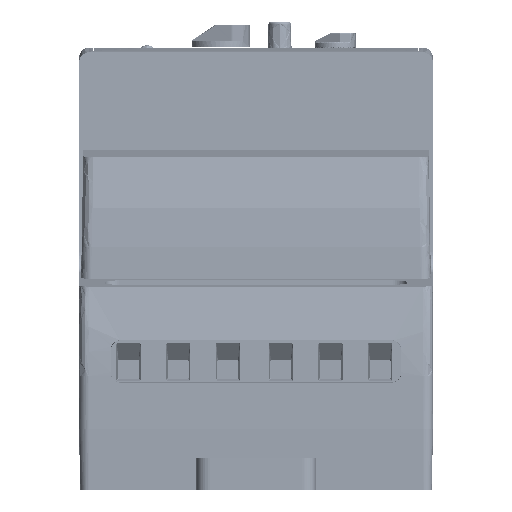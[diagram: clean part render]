
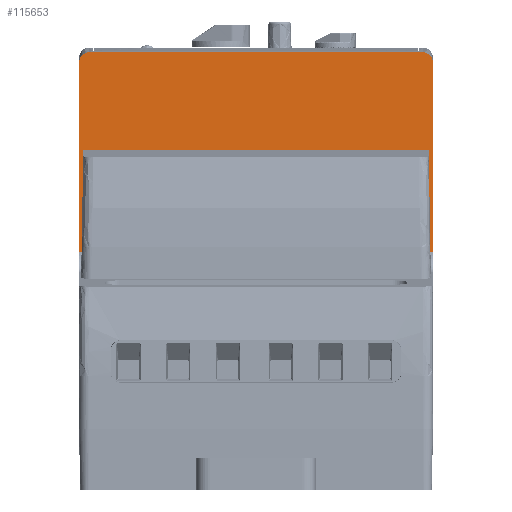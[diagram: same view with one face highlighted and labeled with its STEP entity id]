
A CAD part, front view. The second image highlights one B-rep face of the part: STEP entity #115653.
In plain terms, the highlighted planar face has unit normal (0, -1, 0.015).
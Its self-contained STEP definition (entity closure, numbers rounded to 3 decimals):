
#1202 = CARTESIAN_POINT ( 'NONE',  ( -59.507, 98.055, 66.973 ) ) ;
#6231 = CARTESIAN_POINT ( 'NONE',  ( -110.753, 97.823, 51.913 ) ) ;
#6941 = B_SPLINE_CURVE_WITH_KNOTS ( 'NONE', 3,
 ( #46424, #119510, #61134, #163722 ),
 .UNSPECIFIED., .F., .F.,
 ( 4, 4 ),
 ( 0., 1. ),
 .UNSPECIFIED. ) ;
#7844 = CARTESIAN_POINT ( 'NONE',  ( -59.065, 98.264, 80.534 ) ) ;
#8458 = CARTESIAN_POINT ( 'NONE',  ( -110.137, 98.273, 81.094 ) ) ;
#8789 = EDGE_CURVE ( 'NONE', #171015, #132635, #64210, .T. ) ;
#9782 = ORIENTED_EDGE ( 'NONE', *, *, #45467, .T. ) ;
#9976 = EDGE_CURVE ( 'NONE', #50767, #98495, #98747, .T. ) ;
#12181 = FACE_OUTER_BOUND ( 'NONE', #67635, .T. ) ;
#19873 = CARTESIAN_POINT ( 'NONE',  ( -58.876, 97.966, 61.199 ) ) ;
#20860 = VERTEX_POINT ( 'NONE', #164958 ) ;
#22586 = CARTESIAN_POINT ( 'NONE',  ( -59.452, 98.271, 80.982 ) ) ;
#23033 = CARTESIAN_POINT ( 'NONE',  ( -110.508, 97.823, 51.913 ) ) ;
#23185 = CARTESIAN_POINT ( 'NONE',  ( -110.579, 98.267, 80.699 ) ) ;
#25449 = DIRECTION ( 'NONE',  ( -1., 0., 0. ) ) ;
#25553 = CARTESIAN_POINT ( 'NONE',  ( -110.876, 97.966, 61.199 ) ) ;
#31499 = CARTESIAN_POINT ( 'NONE',  ( -59.332, 97.9, 56.933 ) ) ;
#33693 = CARTESIAN_POINT ( 'NONE',  ( -58.876, 97.823, 51.913 ) ) ;
#34388 = EDGE_CURVE ( 'NONE', #98495, #96830, #55266, .T. ) ;
#34469 = CARTESIAN_POINT ( 'NONE',  ( -58.876, 97.823, 51.913 ) ) ;
#34655 = CARTESIAN_POINT ( 'NONE',  ( -58.876, 98.109, 70.485 ) ) ;
#35675 = B_SPLINE_CURVE_WITH_KNOTS ( 'NONE', 3,
 ( #169373, #139334, #96270, #8458, #111046, #23185, #125813, #37954, #140605, #52748 ),
 .UNSPECIFIED., .F., .F.,
 ( 4, 2, 2, 2, 4 ),
 ( 0., 0.25, 0.5, 0.75, 1. ),
 .UNSPECIFIED. ) ;
#35735 = CARTESIAN_POINT ( 'NONE',  ( -110.876, 97.823, 51.913 ) ) ;
#37339 = CARTESIAN_POINT ( 'NONE',  ( -59.983, 98.275, 81.249 ) ) ;
#37954 = CARTESIAN_POINT ( 'NONE',  ( -110.838, 98.258, 80.165 ) ) ;
#38192 = ORIENTED_EDGE ( 'NONE', *, *, #145161, .T. ) ;
#39602 = PLANE ( 'NONE',  #128939 ) ;
#41285 = ORIENTED_EDGE ( 'NONE', *, *, #9976, .T. ) ;
#41796 = B_SPLINE_CURVE_WITH_KNOTS ( 'NONE', 3,
 ( #78184, #19873, #34655, #137280 ),
 .UNSPECIFIED., .F., .F.,
 ( 4, 4 ),
 ( 0., 1. ),
 .UNSPECIFIED. ) ;
#44996 = CARTESIAN_POINT ( 'NONE',  ( -59.507, 98.055, 66.973 ) ) ;
#45467 = EDGE_CURVE ( 'NONE', #161008, #125060, #182099, .T. ) ;
#45784 = VERTEX_POINT ( 'NONE', #61500 ) ;
#46246 = CARTESIAN_POINT ( 'NONE',  ( -59.507, 98.055, 66.973 ) ) ;
#46424 = CARTESIAN_POINT ( 'NONE',  ( -110.508, 97.823, 51.913 ) ) ;
#47944 = CARTESIAN_POINT ( 'NONE',  ( -59.245, 97.823, 51.913 ) ) ;
#48427 = CARTESIAN_POINT ( 'NONE',  ( -60.376, 98.276, 81.288 ) ) ;
#50518 = CARTESIAN_POINT ( 'NONE',  ( -110.508, 97.823, 51.913 ) ) ;
#50767 = VERTEX_POINT ( 'NONE', #44996 ) ;
#52132 = CARTESIAN_POINT ( 'NONE',  ( -60.376, 98.276, 81.288 ) ) ;
#52748 = CARTESIAN_POINT ( 'NONE',  ( -110.876, 98.252, 79.771 ) ) ;
#55266 = B_SPLINE_CURVE_WITH_KNOTS ( 'NONE', 3,
 ( #47944, #165251, #122306, #34469 ),
 .UNSPECIFIED., .F., .F.,
 ( 4, 4 ),
 ( 0., 1. ),
 .UNSPECIFIED. ) ;
#59579 = CARTESIAN_POINT ( 'NONE',  ( -93.333, 98.055, 66.973 ) ) ;
#61134 = CARTESIAN_POINT ( 'NONE',  ( -110.333, 97.978, 61.953 ) ) ;
#61500 = CARTESIAN_POINT ( 'NONE',  ( -110.876, 98.252, 79.771 ) ) ;
#62611 = EDGE_CURVE ( 'NONE', #96830, #161008, #41796, .T. ) ;
#63129 = CARTESIAN_POINT ( 'NONE',  ( -93.043, 98.276, 81.288 ) ) ;
#64210 = B_SPLINE_CURVE_WITH_KNOTS ( 'NONE', 3,
 ( #35735, #6231, #138367, #50518 ),
 .UNSPECIFIED., .F., .F.,
 ( 4, 4 ),
 ( 0., 1. ),
 .UNSPECIFIED. ) ;
#67635 = EDGE_LOOP ( 'NONE', ( #68914, #9782, #113470, #38192, #166216, #188132, #146521, #135532, #41285, #109082 ) ) ;
#68914 = ORIENTED_EDGE ( 'NONE', *, *, #62611, .T. ) ;
#77231 = CARTESIAN_POINT ( 'NONE',  ( -76.71, 98.276, 81.288 ) ) ;
#78184 = CARTESIAN_POINT ( 'NONE',  ( -58.876, 97.823, 51.913 ) ) ;
#80887 = CARTESIAN_POINT ( 'NONE',  ( -58.876, 98.255, 79.971 ) ) ;
#88428 = CARTESIAN_POINT ( 'NONE',  ( -58.876, 98.252, 79.771 ) ) ;
#89035 = CARTESIAN_POINT ( 'NONE',  ( -76.42, 98.055, 66.973 ) ) ;
#96270 = CARTESIAN_POINT ( 'NONE',  ( -109.768, 98.275, 81.249 ) ) ;
#96830 = VERTEX_POINT ( 'NONE', #33693 ) ;
#98495 = VERTEX_POINT ( 'NONE', #105557 ) ;
#98552 = CARTESIAN_POINT ( 'NONE',  ( -53.067, 97.768, 48.357 ) ) ;
#98747 = B_SPLINE_CURVE_WITH_KNOTS ( 'NONE', 3,
 ( #46246, #134093, #31499, #148850 ),
 .UNSPECIFIED., .F., .F.,
 ( 4, 4 ),
 ( 0., 1. ),
 .UNSPECIFIED. ) ;
#101537 = CARTESIAN_POINT ( 'NONE',  ( -110.245, 98.055, 66.973 ) ) ;
#105557 = CARTESIAN_POINT ( 'NONE',  ( -59.245, 97.823, 51.913 ) ) ;
#106425 = CARTESIAN_POINT ( 'NONE',  ( -110.876, 97.823, 51.913 ) ) ;
#107146 = CARTESIAN_POINT ( 'NONE',  ( -60.376, 98.276, 81.288 ) ) ;
#109082 = ORIENTED_EDGE ( 'NONE', *, *, #34388, .T. ) ;
#110449 = CARTESIAN_POINT ( 'NONE',  ( -59.171, 98.267, 80.697 ) ) ;
#111046 = CARTESIAN_POINT ( 'NONE',  ( -110.299, 98.271, 80.983 ) ) ;
#113306 = DIRECTION ( 'NONE',  ( 0., -1., 0.015 ) ) ;
#113470 = ORIENTED_EDGE ( 'NONE', *, *, #130579, .T. ) ;
#113856 = B_SPLINE_CURVE_WITH_KNOTS ( 'NONE', 3,
 ( #157008, #171750, #25553, #128164 ),
 .UNSPECIFIED., .F., .F.,
 ( 4, 4 ),
 ( 0., 1. ),
 .UNSPECIFIED. ) ;
#115653 = ADVANCED_FACE ( 'NONE', ( #12181 ), #39602, .T. ) ;
#119510 = CARTESIAN_POINT ( 'NONE',  ( -110.42, 97.9, 56.933 ) ) ;
#119698 = EDGE_CURVE ( 'NONE', #132635, #150494, #6941, .T. ) ;
#122306 = CARTESIAN_POINT ( 'NONE',  ( -58.999, 97.823, 51.913 ) ) ;
#125060 = VERTEX_POINT ( 'NONE', #107146 ) ;
#125179 = CARTESIAN_POINT ( 'NONE',  ( -59.613, 98.273, 81.092 ) ) ;
#125813 = CARTESIAN_POINT ( 'NONE',  ( -110.687, 98.264, 80.535 ) ) ;
#128164 = CARTESIAN_POINT ( 'NONE',  ( -110.876, 97.823, 51.913 ) ) ;
#128939 = AXIS2_PLACEMENT_3D ( 'NONE', #98552, #113306, #25449 ) ;
#130579 = EDGE_CURVE ( 'NONE', #125060, #20860, #176618, .T. ) ;
#132635 = VERTEX_POINT ( 'NONE', #23033 ) ;
#134093 = CARTESIAN_POINT ( 'NONE',  ( -59.42, 97.978, 61.953 ) ) ;
#135532 = ORIENTED_EDGE ( 'NONE', *, *, #153980, .T. ) ;
#137280 = CARTESIAN_POINT ( 'NONE',  ( -58.876, 98.252, 79.771 ) ) ;
#138367 = CARTESIAN_POINT ( 'NONE',  ( -110.631, 97.823, 51.913 ) ) ;
#139334 = CARTESIAN_POINT ( 'NONE',  ( -109.576, 98.276, 81.288 ) ) ;
#139984 = CARTESIAN_POINT ( 'NONE',  ( -60.176, 98.276, 81.288 ) ) ;
#140605 = CARTESIAN_POINT ( 'NONE',  ( -110.876, 98.255, 79.972 ) ) ;
#145161 = EDGE_CURVE ( 'NONE', #20860, #45784, #35675, .T. ) ;
#146521 = ORIENTED_EDGE ( 'NONE', *, *, #119698, .T. ) ;
#148850 = CARTESIAN_POINT ( 'NONE',  ( -59.245, 97.823, 51.913 ) ) ;
#150494 = VERTEX_POINT ( 'NONE', #101537 ) ;
#153980 = EDGE_CURVE ( 'NONE', #150494, #50767, #168419, .T. ) ;
#157008 = CARTESIAN_POINT ( 'NONE',  ( -110.876, 98.252, 79.771 ) ) ;
#161008 = VERTEX_POINT ( 'NONE', #88428 ) ;
#162160 = CARTESIAN_POINT ( 'NONE',  ( -110.245, 98.055, 66.973 ) ) ;
#162291 = EDGE_CURVE ( 'NONE', #45784, #171015, #113856, .T. ) ;
#163722 = CARTESIAN_POINT ( 'NONE',  ( -110.245, 98.055, 66.973 ) ) ;
#164958 = CARTESIAN_POINT ( 'NONE',  ( -109.376, 98.276, 81.288 ) ) ;
#165251 = CARTESIAN_POINT ( 'NONE',  ( -59.122, 97.823, 51.913 ) ) ;
#165729 = CARTESIAN_POINT ( 'NONE',  ( -109.376, 98.276, 81.288 ) ) ;
#166216 = ORIENTED_EDGE ( 'NONE', *, *, #162291, .T. ) ;
#168419 = B_SPLINE_CURVE_WITH_KNOTS ( 'NONE', 3,
 ( #162160, #59579, #89035, #1202 ),
 .UNSPECIFIED., .F., .F.,
 ( 4, 4 ),
 ( 0., 1. ),
 .UNSPECIFIED. ) ;
#168765 = CARTESIAN_POINT ( 'NONE',  ( -58.913, 98.258, 80.162 ) ) ;
#169373 = CARTESIAN_POINT ( 'NONE',  ( -109.376, 98.276, 81.288 ) ) ;
#171015 = VERTEX_POINT ( 'NONE', #106425 ) ;
#171750 = CARTESIAN_POINT ( 'NONE',  ( -110.876, 98.109, 70.485 ) ) ;
#176618 = B_SPLINE_CURVE_WITH_KNOTS ( 'NONE', 3,
 ( #48427, #77231, #63129, #165729 ),
 .UNSPECIFIED., .F., .F.,
 ( 4, 4 ),
 ( 0., 1. ),
 .UNSPECIFIED. ) ;
#182099 = B_SPLINE_CURVE_WITH_KNOTS ( 'NONE', 3,
 ( #183429, #80887, #168765, #7844, #110449, #22586, #125179, #37339, #139984, #52132 ),
 .UNSPECIFIED., .F., .F.,
 ( 4, 2, 2, 2, 4 ),
 ( 0., 0.25, 0.5, 0.75, 1. ),
 .UNSPECIFIED. ) ;
#183429 = CARTESIAN_POINT ( 'NONE',  ( -58.876, 98.252, 79.771 ) ) ;
#188132 = ORIENTED_EDGE ( 'NONE', *, *, #8789, .T. ) ;
